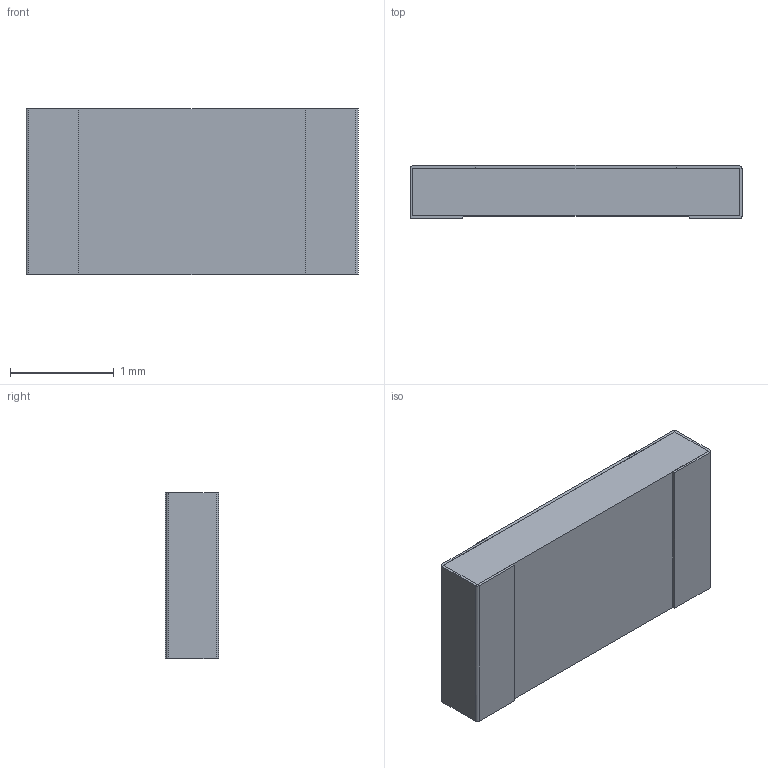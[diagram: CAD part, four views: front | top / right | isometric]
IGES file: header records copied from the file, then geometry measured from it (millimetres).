
Global section: file name: PTN1206; native system: Autodesk Inventor LT ; preprocessor: unknown; author: Neil; date: 20200108.145442; units: inch
Bounding box: 3.2 x 0.52 x 1.6 mm (x, y, z)
Volume: 2.5 mm3; surface area: 36.4 mm2
Topology: 5 solids, 5 shells, 98 faces, 264 edges, 176 vertices
Faces by surface type: bspline 98
